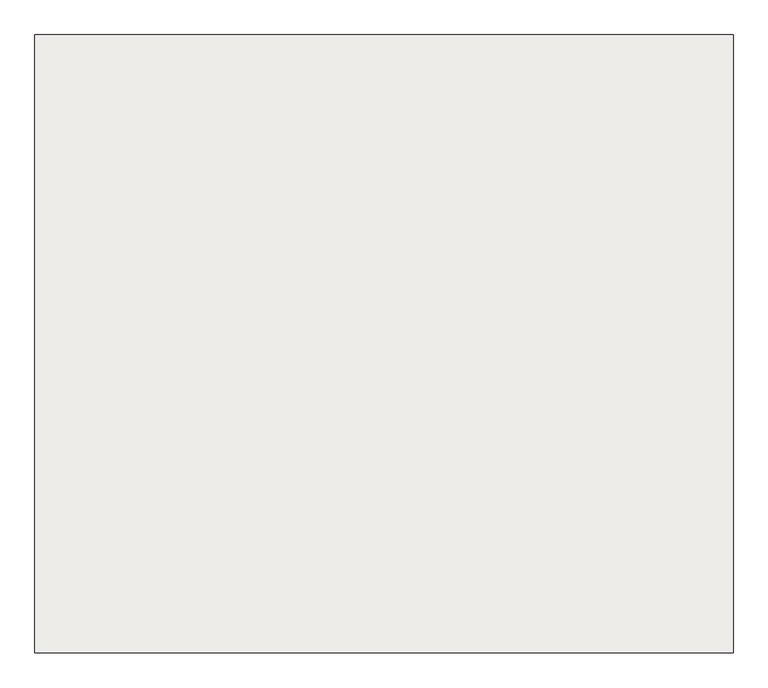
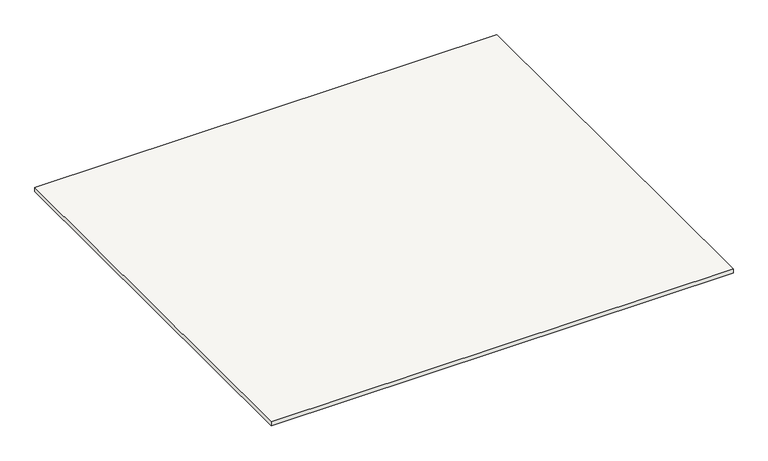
"""IFC4 building model written with IfcOpenShell, lengths in millimetres: slab geometry, Non-Monolitic_Landing."""

from ifc_helpers import new_model, si_unit, frame, origin, place, context, project, spatial, polyline, outline, extrude, source, transform, mapped, element, save


def slab_b811430f(model_context):
    return source(origin(), model_context, "Body", "SweptSolid", [
        extrude(outline(polyline([(6269.4763518, 3382.5459718), (6269.4763518, 4382.5459795), (7399.4763518, 4382.5459795), (7399.4763518, 3382.5459718), (6269.4763518, 3382.5459718)])), frame((0.0, 0.0, 20625.0), z_axis=(0.0, 0.0, 1.0), x_axis=(1.0, 0.0, 0.0)), (0.0, 0.0, 1.0), 10.0),
    ])


if __name__ == "__main__":
    model = new_model("IFC4")
    model_context = context("Model", 3, world=origin())
    ifc_project = project(units=[si_unit("LENGTHUNIT", "METRE", prefix="MILLI")], contexts=[model_context])
    site = spatial("IfcSite", under=ifc_project)
    building = spatial("IfcBuilding", under=site)
    placement = place(None, origin())
    slab_shape = slab_b811430f(model_context)
    element("IfcSlab", 1, ObjectType="Non-Monolitic_Landing", at=placement, inside=building, context=model_context, shape_type="MappedRepresentation", body=[
        mapped(slab_shape, transform((0.0, 0.0, 0.0), x_axis=(1.0, 0.0, 0.0), y_axis=(0.0, 1.0, 0.0), z_axis=(0.0, 0.0, 1.0))),
    ])
    save(model, "model.ifc")
